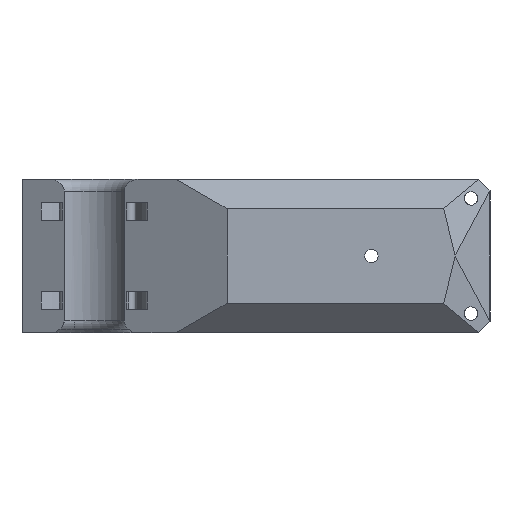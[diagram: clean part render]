
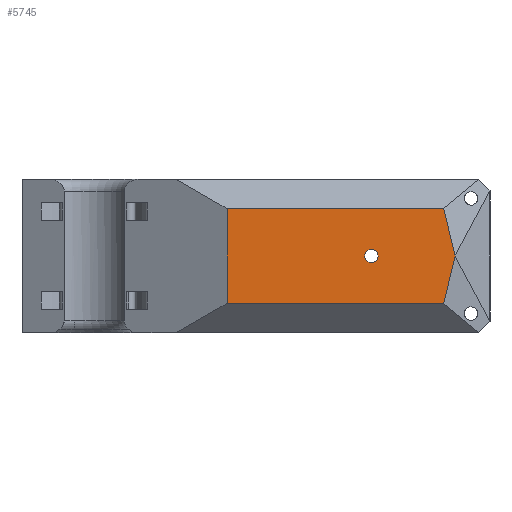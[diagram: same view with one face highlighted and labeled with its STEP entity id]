
A CAD part, left-side view. The second image highlights one B-rep face of the part: STEP entity #5745.
In plain terms, the highlighted planar face has unit normal (-1, 0, 0).
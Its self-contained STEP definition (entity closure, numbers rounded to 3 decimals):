
#22 = ORIENTED_EDGE ( 'NONE', *, *, #7791, .T. ) ;
#27 = EDGE_LOOP ( 'NONE', ( #2309, #3065 ) ) ;
#151 = EDGE_CURVE ( 'NONE', #2188, #6811, #2773, .T. ) ;
#275 = LINE ( 'NONE', #7024, #6227 ) ;
#441 = VERTEX_POINT ( 'NONE', #3169 ) ;
#519 = LINE ( 'NONE', #6749, #3297 ) ;
#684 = CARTESIAN_POINT ( 'NONE',  ( 242.7, 316.101, 129. ) ) ;
#796 = DIRECTION ( 'NONE',  ( 1., 0., 0. ) ) ;
#1046 = DIRECTION ( 'NONE',  ( 0., -1., 0. ) ) ;
#1133 = LINE ( 'NONE', #3574, #2857 ) ;
#1285 = VERTEX_POINT ( 'NONE', #7062 ) ;
#1352 = EDGE_CURVE ( 'NONE', #2188, #441, #1133, .T. ) ;
#1449 = DIRECTION ( 'NONE',  ( -1., 0., 0. ) ) ;
#1480 = EDGE_CURVE ( 'NONE', #4149, #2461, #6409, .T. ) ;
#2036 = DIRECTION ( 'NONE',  ( 0., 0.233, 0.972 ) ) ;
#2188 = VERTEX_POINT ( 'NONE', #2728 ) ;
#2309 = ORIENTED_EDGE ( 'NONE', *, *, #3377, .T. ) ;
#2330 = DIRECTION ( 'NONE',  ( 0., 1., 0. ) ) ;
#2461 = VERTEX_POINT ( 'NONE', #5541 ) ;
#2710 = VECTOR ( 'NONE', #5923, 1000. ) ;
#2728 = CARTESIAN_POINT ( 'NONE',  ( 242.7, 340.839, 120.877 ) ) ;
#2773 = LINE ( 'NONE', #7649, #2710 ) ;
#2857 = VECTOR ( 'NONE', #1046, 1000. ) ;
#2877 = FACE_BOUND ( 'NONE', #27, .T. ) ;
#2922 = CARTESIAN_POINT ( 'NONE',  ( 242.7, 316.101, 127.85 ) ) ;
#3048 = AXIS2_PLACEMENT_3D ( 'NONE', #684, #796, #4424 ) ;
#3065 = ORIENTED_EDGE ( 'NONE', *, *, #6994, .T. ) ;
#3169 = CARTESIAN_POINT ( 'NONE',  ( 242.7, 303.695, 120.877 ) ) ;
#3240 = AXIS2_PLACEMENT_3D ( 'NONE', #5953, #4159, #7635 ) ;
#3244 = ORIENTED_EDGE ( 'NONE', *, *, #151, .F. ) ;
#3297 = VECTOR ( 'NONE', #5425, 1000. ) ;
#3346 = CARTESIAN_POINT ( 'NONE',  ( 242.7, 248.251, -94.374 ) ) ;
#3377 = EDGE_CURVE ( 'NONE', #5806, #1285, #5271, .T. ) ;
#3468 = CARTESIAN_POINT ( 'NONE',  ( 242.7, 340.839, 137.123 ) ) ;
#3574 = CARTESIAN_POINT ( 'NONE',  ( 242.7, 311.75, 120.877 ) ) ;
#3892 = DIRECTION ( 'NONE',  ( 0., 0., 1. ) ) ;
#4149 = VERTEX_POINT ( 'NONE', #4483 ) ;
#4159 = DIRECTION ( 'NONE',  ( 1., 0., 0. ) ) ;
#4377 = VECTOR ( 'NONE', #2036, 1000. ) ;
#4424 = DIRECTION ( 'NONE',  ( 0., 0., -1. ) ) ;
#4483 = CARTESIAN_POINT ( 'NONE',  ( 242.7, 301.75, 129. ) ) ;
#4744 = ORIENTED_EDGE ( 'NONE', *, *, #1352, .T. ) ;
#4782 = EDGE_LOOP ( 'NONE', ( #4744, #7545, #5552, #22, #3244 ) ) ;
#4829 = CIRCLE ( 'NONE', #3048, 1.15 ) ;
#5271 = CIRCLE ( 'NONE', #3240, 1.15 ) ;
#5301 = CARTESIAN_POINT ( 'NONE',  ( 242.7, 355.7, -117.713 ) ) ;
#5425 = DIRECTION ( 'NONE',  ( 0., -0.233, 0.972 ) ) ;
#5541 = CARTESIAN_POINT ( 'NONE',  ( 242.7, 303.695, 137.123 ) ) ;
#5552 = ORIENTED_EDGE ( 'NONE', *, *, #1480, .T. ) ;
#5745 = ADVANCED_FACE ( 'NONE', ( #2877, #6948 ), #6308, .T. ) ;
#5806 = VERTEX_POINT ( 'NONE', #2922 ) ;
#5923 = DIRECTION ( 'NONE',  ( 0., 0., 1. ) ) ;
#5953 = CARTESIAN_POINT ( 'NONE',  ( 242.7, 316.101, 129. ) ) ;
#5959 = AXIS2_PLACEMENT_3D ( 'NONE', #5301, #1449, #3892 ) ;
#6227 = VECTOR ( 'NONE', #2330, 1000. ) ;
#6308 = PLANE ( 'NONE',  #5959 ) ;
#6409 = LINE ( 'NONE', #3346, #4377 ) ;
#6749 = CARTESIAN_POINT ( 'NONE',  ( 242.7, 360.017, -114.284 ) ) ;
#6811 = VERTEX_POINT ( 'NONE', #3468 ) ;
#6948 = FACE_OUTER_BOUND ( 'NONE', #4782, .T. ) ;
#6994 = EDGE_CURVE ( 'NONE', #1285, #5806, #4829, .T. ) ;
#7024 = CARTESIAN_POINT ( 'NONE',  ( 242.7, 355.7, 137.123 ) ) ;
#7062 = CARTESIAN_POINT ( 'NONE',  ( 242.7, 316.101, 130.15 ) ) ;
#7436 = EDGE_CURVE ( 'NONE', #441, #4149, #519, .T. ) ;
#7545 = ORIENTED_EDGE ( 'NONE', *, *, #7436, .T. ) ;
#7635 = DIRECTION ( 'NONE',  ( 0., 0., -1. ) ) ;
#7649 = CARTESIAN_POINT ( 'NONE',  ( 242.7, 340.839, 129. ) ) ;
#7791 = EDGE_CURVE ( 'NONE', #2461, #6811, #275, .T. ) ;
